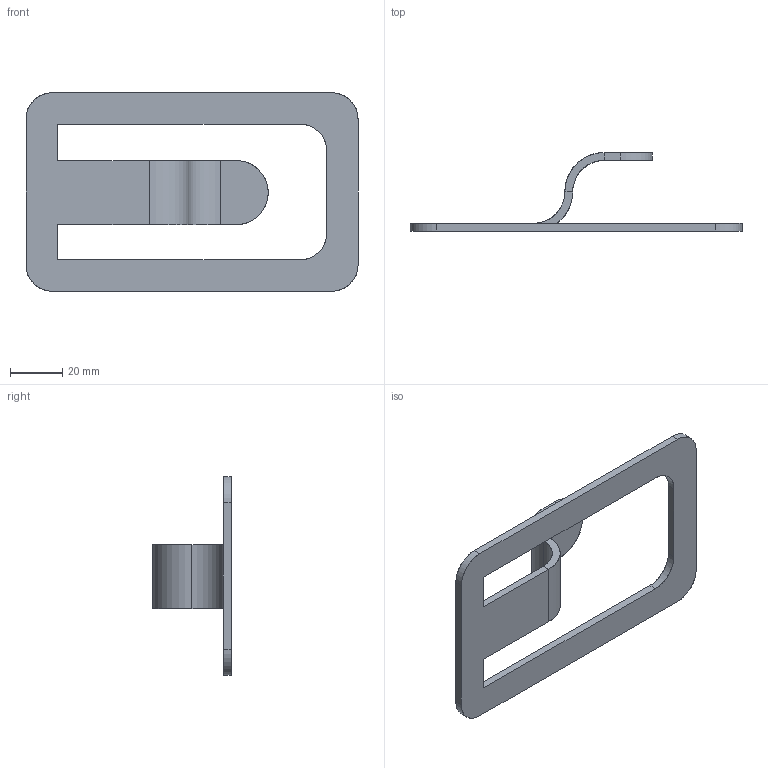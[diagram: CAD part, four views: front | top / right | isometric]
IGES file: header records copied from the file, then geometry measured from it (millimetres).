
Start section: SolidWorks IGES file using analytic representation for surfaces
Global section: file name: C:\Documents and Settings\Pc\Escritorio\Modelos 3D\Capítulo 1 (Estático)\PRACTICAS PROPUESTAS\P-1\propuesta-1.IGS; native system: SolidWorks 2010; preprocessor: SolidWorks 2010; author: Pc; date: 100623.112602; units: millimetre
Bounding box: 126.76 x 30 x 75.78 mm (x, y, z)
Surface area: 15664.2 mm2 (no closed solid volume)
Topology: 0 solids, 0 shells, 32 faces, 358 edges, 358 vertices
Faces by surface type: bspline 21, revolution 11
